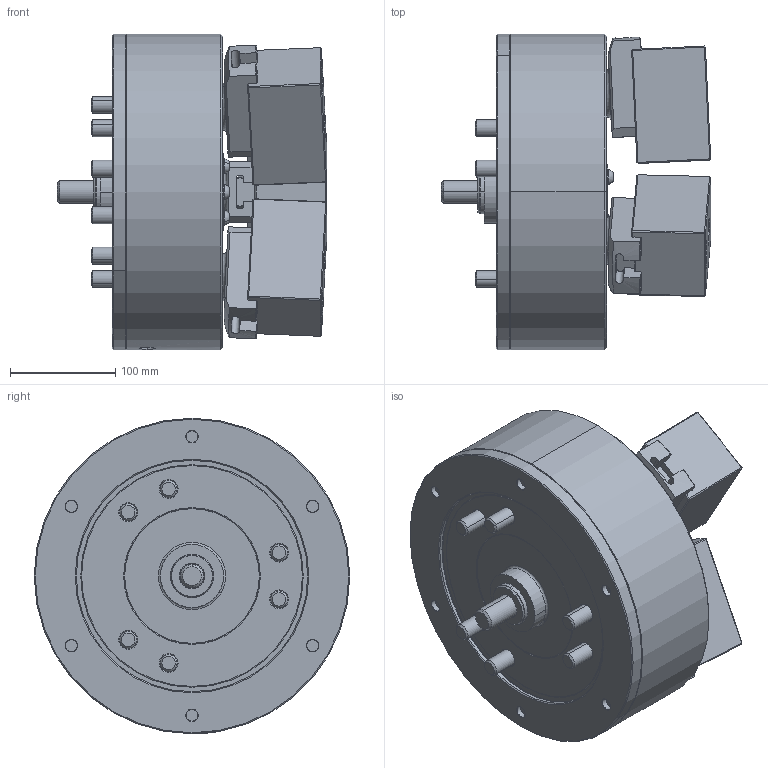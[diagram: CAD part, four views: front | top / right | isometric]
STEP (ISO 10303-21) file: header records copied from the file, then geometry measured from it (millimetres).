
FILE_DESCRIPTION (( 'STEP AP214' ), '1' );
FILE_NAME ('PW-12_UC.STEP', '2019-10-08T06:53:19', ( '' ), ( '' ), 'SwSTEP 2.0', 'SolidWorks 2017', '' );
FILE_SCHEMA (( 'AUTOMOTIVE_DESIGN' ));
Length unit declared in the file: millimetre
Products named in the file (5): PW-12_UC; 結合_OD; 0030116025; 61P420193; 61P323264
Assembly tree (13 placements, depth 2):
  PW-12_UC
    61P323264  x3
    61P420193  x3
    0030116025  x6
    結合_OD
Bounding box: 256.15 x 300 x 300 mm (x, y, z)
Volume: 9038053.5 mm3; surface area: 604194.2 mm2
Topology: 13 solids, 14 shells, 1761 faces, 4258 edges, 2647 vertices
Faces by surface type: plane 903, cone 326, cylinder 281, bspline 185, torus 60, sphere 6
Entity records: 51568 total; most frequent: CARTESIAN_POINT 18018, ORIENTED_EDGE 7192, DIRECTION 6327, EDGE_CURVE 3596, VERTEX_POINT 2272, AXIS2_PLACEMENT_3D 2156, VECTOR 2015, LINE 2015
